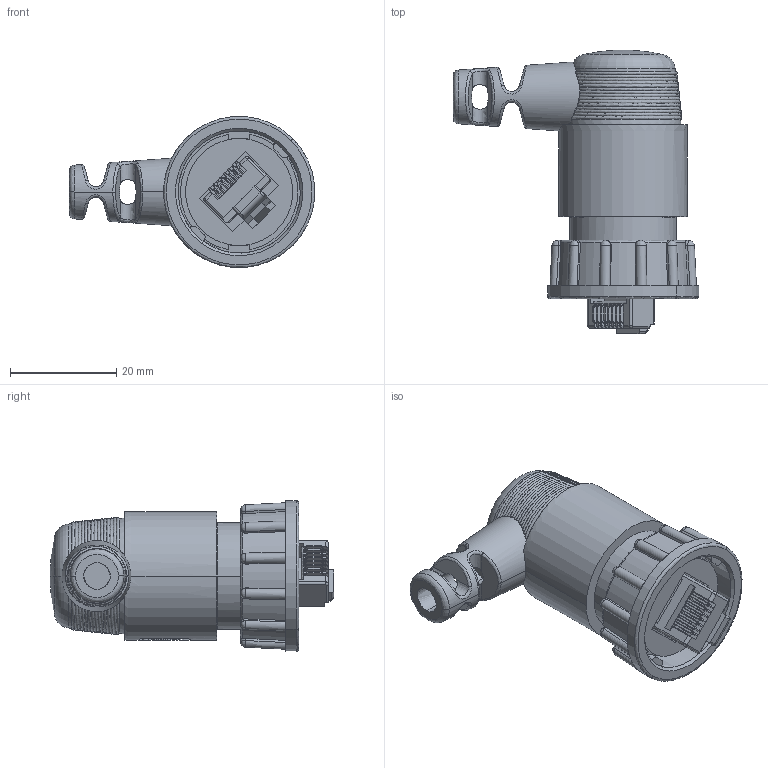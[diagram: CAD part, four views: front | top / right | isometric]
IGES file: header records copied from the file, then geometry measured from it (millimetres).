
Start section:  PTC IGES file: RJS-5EAMMM-LR7EXX-IGS.igs
Global section: file name: RJS-5EAMMM-LR7EXX-IGS.igs; native system: Creo Parametric by Parametric Technology Corporation; preprocessor: 2017170; author: L210038; organization: Unknown; date: 20211101.110149; units: millimetre
Bounding box: 46.22 x 53.43 x 28.44 mm (x, y, z)
Volume: 20251.2 mm3; surface area: 9159.2 mm2
Topology: 2 solids, 2 shells, 698 faces, 2016 edges, 1307 vertices
Faces by surface type: bspline 423, revolution 202, extrusion 73
